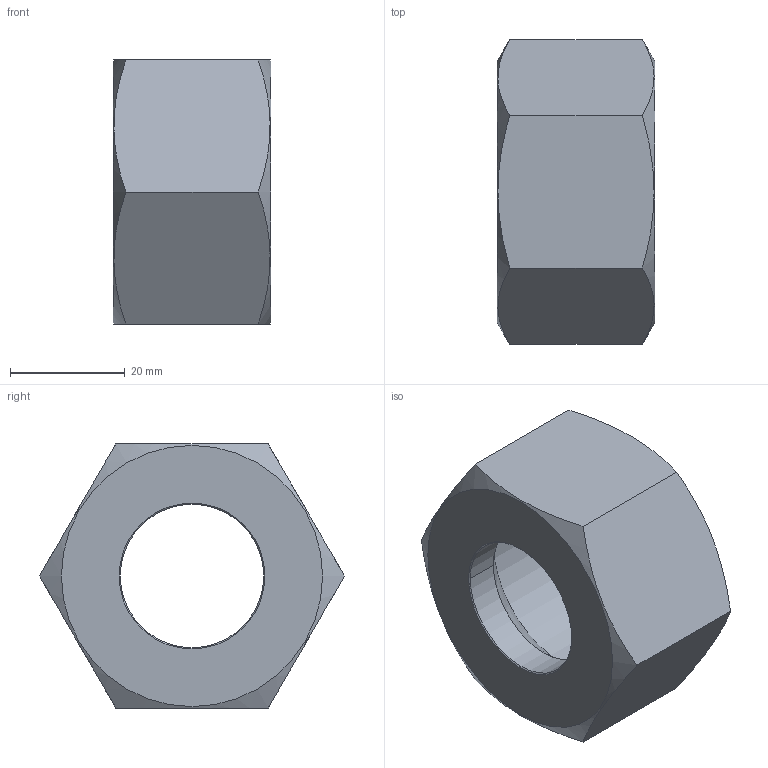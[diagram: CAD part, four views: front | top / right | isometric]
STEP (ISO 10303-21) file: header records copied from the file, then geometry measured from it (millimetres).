
FILE_DESCRIPTION((''),'2;1');
FILE_NAME('100221.stp','2006-03-06T15:10:14',('Dario Falcomer'),('CAST S.p.A.'),'AutoCAD STEP 2000i','AutoCAD 2000i',', , ');
FILE_SCHEMA(('CONFIG_CONTROL_DESIGN'));
Length unit declared in the file: millimetre
Products named in the file (2): 100221.0; CHIAVE_DADI#0
Assembly tree (1 placements, depth 2):
  100221.0
    CHIAVE_DADI#0
Bounding box: 27.5 x 53.12 x 46 mm (x, y, z)
Volume: 28417.1 mm3; surface area: 9222.1 mm2
Topology: 1 solids, 1 shells, 22 faces, 52 edges, 32 vertices
Faces by surface type: cone 10, plane 8, cylinder 4
Entity records: 725 total; most frequent: CARTESIAN_POINT 140, ORIENTED_EDGE 104, DIRECTION 100, EDGE_CURVE 52, AXIS2_PLACEMENT_3D 40, VERTEX_POINT 32, EDGE_LOOP 24, FACE_OUTER_BOUND 22
